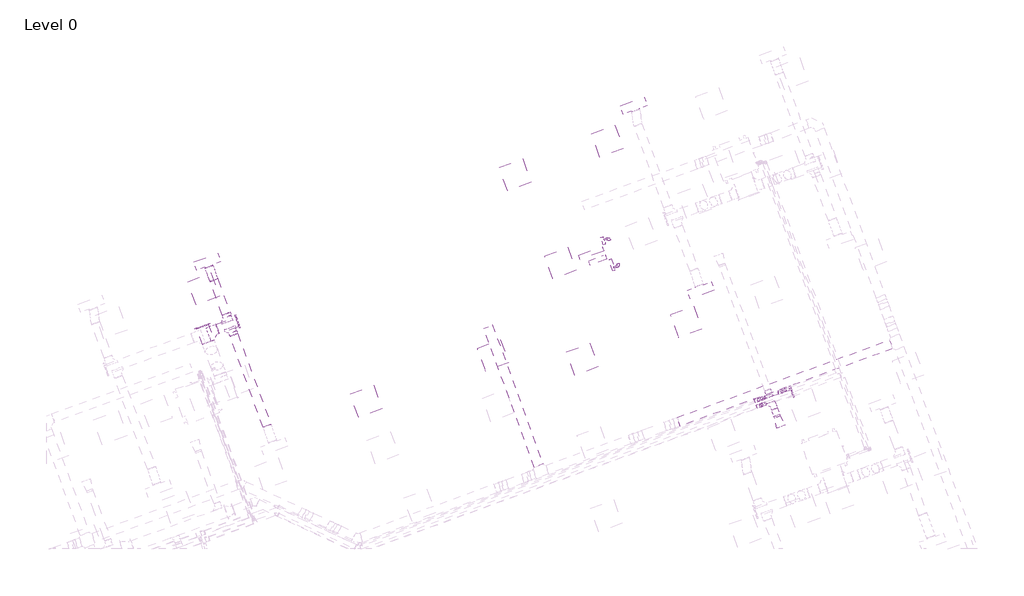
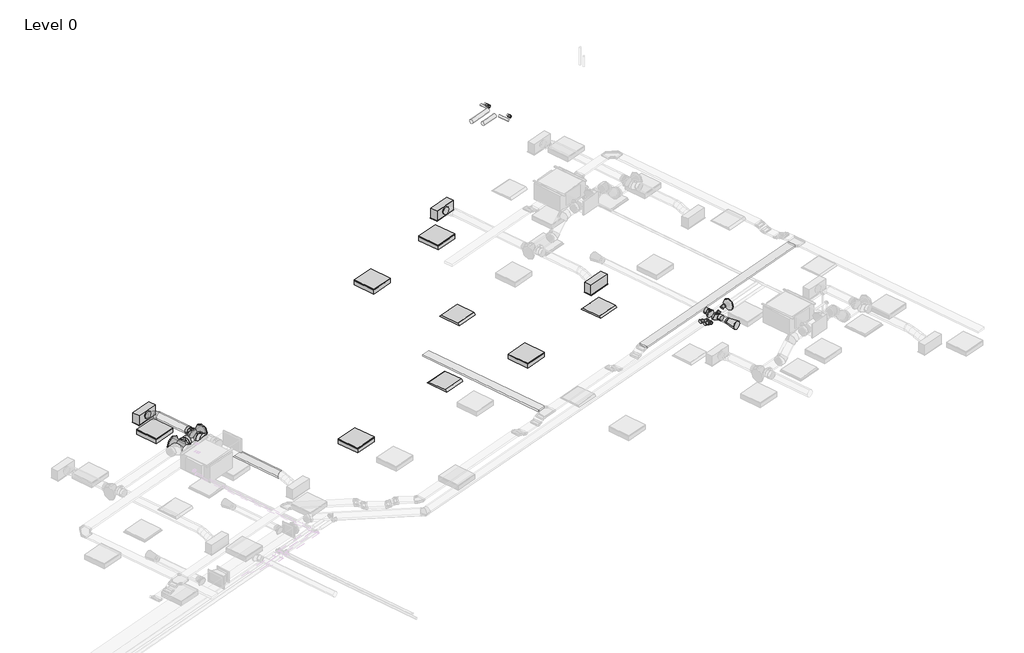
# One storey, part 31 of 34: 10 pipe segments, 8 duct fittings, 8 light fixtures, 8 pipe fittings, 6 duct segments, 4 air terminals, 2 cable carrier segments.
"""IFC4 building model written with IfcOpenShell, lengths in millimetres."""

from ifc_helpers import new_model, si_unit, point, frame, frame_2d, origin, place, context, project, spatial, polyline, circle_curve, ellipse_curve, trimmed, segment, composite_curve, outline, extrude, transform, mapped, element, save
from ifc_brep_helpers import plane_surface, cylinder_surface, advanced_brep
from components import air_terminal_0d1c431e, supply_diffuser_with_plenum_linear_slot_hosted_8c379eed, dw144_round_blank_end_standard_8c6f93a0, dw144_round_blank_end_standard_e3d0b58b, dw144_round_blank_end_standard_5beff049, dw144_round_shoe_branch_slip_joint1_standard_2_0dbb398a, dw144_round_shoe_branch_slip_joint1_standard_2_15a2edd8, dw144_round_shoe_branch_slip_joint1_standard_2_ce91aa06, dw144_round_shoe_branch_slip_joint1_standard_2_54bfcc3c, light_fixture_b730b5ca, troffer_light_2x2_parabolic_2_x2_2_lamp_120v_6a063ff3, elbow_plain_abs_standard_192b4b37, elbow_threaded_gmi_standard_e52ea759

model = new_model("IFC4")

# Units and contexts
model_context = context("Model", 3, world=origin())
ifc_project = project(units=[si_unit("LENGTHUNIT", "METRE", prefix="MILLI")], contexts=[model_context])

# Site, building, storey
site = spatial("IfcSite", under=ifc_project)
building = spatial("IfcBuilding", under=site)
storey = spatial("IfcBuildingStorey", under=building, Name="Level 0", Elevation=0.0)

# Air terminals
placement = place(None, origin())
air_terminal_shape = air_terminal_0d1c431e(model_context)
element("IfcAirTerminal", 1, ObjectType="Supply_Bell_Mouth_Grille : Supply_Bell_Mouth_Grille", at=placement, inside=storey, context=model_context, shape_type="MappedRepresentation", body=[
    mapped(air_terminal_shape, transform((59441.0619748, 16002.7415496, 3050.0), x_axis=(0.3420201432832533, -0.9396926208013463, 0.0), y_axis=(0.9396926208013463, 0.3420201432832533, 0.0), z_axis=(0.0, 0.0, 1.0))),
])
supply_diffuser_with_plenum_linear_slot_hosted_shape = supply_diffuser_with_plenum_linear_slot_hosted_8c379eed(model_context)
element("IfcAirTerminal", 2, ObjectType="Supply Diffuser with Plenum - Linear Slot - Hosted : 24\" x 8\"-200 In Inlet  4-Slot", at=placement, inside=storey, context=model_context, shape_type="MappedRepresentation", body=[
    mapped(supply_diffuser_with_plenum_linear_slot_hosted_shape, transform((45507.8020498, 19798.6228469, 2800.0), x_axis=(-0.9396926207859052, -0.3420201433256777, 0.0), y_axis=(-0.3420201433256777, 0.9396926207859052, 0.0), z_axis=(0.0, 0.0, -1.0))),
])
element("IfcAirTerminal", 3, ObjectType="Supply Diffuser with Plenum - Linear Slot - Hosted : 24\" x 8\"-200 In Inlet  4-Slot", at=placement, inside=storey, context=model_context, shape_type="MappedRepresentation", body=[
    mapped(supply_diffuser_with_plenum_linear_slot_hosted_shape, transform((55928.2677465, 23610.3577605, 2800.0), x_axis=(-0.9396926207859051, -0.3420201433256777, 0.0), y_axis=(-0.3420201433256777, 0.9396926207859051, 0.0), z_axis=(0.0, 0.0, -1.0))),
])
element("IfcAirTerminal", 4, ObjectType="Supply Diffuser with Plenum - Linear Slot - Hosted : 24\" x 8\"-200 In Inlet  4-Slot", at=placement, inside=storey, context=model_context, shape_type="MappedRepresentation", body=[
    mapped(supply_diffuser_with_plenum_linear_slot_hosted_shape, transform((57569.9644345, 19099.8331807, 2800.0), x_axis=(0.939692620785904, 0.342020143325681, 0.0), y_axis=(0.342020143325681, -0.939692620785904, 0.0), z_axis=(0.0, 0.0, -1.0))),
])

# Cable carrier segments
element("IfcCableCarrierSegment", 5, ObjectType="Perforated Cable Tray", at=placement, inside=storey, context=model_context, shape_type="SweptSolid", body=[
    extrude(outline(polyline([(57064.256116, 15784.4127054), (56987.3015838, 15995.8435451), (62175.5159364, 17884.1991384), (62252.4704687, 17672.7682988), (57064.256116, 15784.4127054)])), frame((0.0, 0.0, 3223.9627355), z_axis=(0.0, 0.0, 1.0), x_axis=(1.0, 0.0, 0.0)), (0.0, 0.0, 1.0), 50.0),
])
element("IfcCableCarrierSegment", 6, ObjectType="Perforated Cable Tray", at=placement, inside=storey, context=model_context, shape_type="SweptSolid", body=[
    extrude(outline(polyline([(53712.3288317, 14857.0598339), (53500.897992, 14780.1053017), (52264.8463348, 18176.1293191), (52476.2771745, 18253.0838513), (53712.3288317, 14857.0598339)])), frame((0.0, 0.0, 3223.9627355), z_axis=(0.0, 0.0, 1.0), x_axis=(1.0, 0.0, 0.0)), (0.0, 0.0, 1.0), 50.0),
])

# Duct fittings
dw144_round_blank_end_standard_shape = dw144_round_blank_end_standard_8c6f93a0(model_context)
element("IfcDuctFitting", 7, ObjectType="DW144 Round Blank End : Standard", at=placement, inside=storey, context=model_context, shape_type="MappedRepresentation", body=[
    mapped(dw144_round_blank_end_standard_shape, transform((45393.8401716, 18213.3017532, 3072.2088531), x_axis=(-0.3420201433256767, 0.9396926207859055, 0.0), y_axis=(-0.9396926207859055, -0.3420201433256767, 0.0), z_axis=(0.0, 0.0, 1.0))),
])
dw144_round_blank_end_standard_2_shape = dw144_round_blank_end_standard_e3d0b58b(model_context)
element("IfcDuctFitting", 8, ObjectType="DW144 Round Blank End : Standard", at=placement, inside=storey, context=model_context, shape_type="MappedRepresentation", body=[
    mapped(dw144_round_blank_end_standard_2_shape, transform((46241.3458374, 18331.6052055, 3072.2088531), x_axis=(0.9396926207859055, 0.3420201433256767, 0.0), y_axis=(-0.3420201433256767, 0.9396926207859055, 0.0), z_axis=(0.0, 0.0, 1.0))),
])
dw144_round_blank_end_standard_3_shape = dw144_round_blank_end_standard_5beff049(model_context)
element("IfcDuctFitting", 9, ObjectType="DW144 Round Blank End : Standard", at=placement, inside=storey, context=model_context, shape_type="MappedRepresentation", body=[
    mapped(dw144_round_blank_end_standard_3_shape, transform((59783.5120284, 16619.7977036, 3050.0), x_axis=(0.9396926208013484, 0.34202014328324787, 0.0), y_axis=(-0.34202014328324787, 0.9396926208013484, 0.0), z_axis=(0.0, 0.0, 1.0))),
])
dw144_round_shoe_branch_slip_joint1_standard_2_shape = dw144_round_shoe_branch_slip_joint1_standard_2_0dbb398a(model_context)
element("IfcDuctFitting", 10, ObjectType="DW144 Round Shoe Branch - Slip Joint1 : Standard 2", at=placement, inside=storey, context=model_context, shape_type="MappedRepresentation", body=[
    mapped(dw144_round_shoe_branch_slip_joint1_standard_2_shape, transform((45595.9113981, 18096.6862814, 3072.2088531), x_axis=(0.9396926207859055, 0.3420201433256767, 0.0), y_axis=(0.3420201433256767, -0.9396926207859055, 0.0), z_axis=(0.0, 0.0, -1.0))),
])
dw144_round_shoe_branch_slip_joint1_standard_2_2_shape = dw144_round_shoe_branch_slip_joint1_standard_2_15a2edd8(model_context)
element("IfcDuctFitting", 11, ObjectType="DW144 Round Shoe Branch - Slip Joint1 : Standard 2", at=placement, inside=storey, context=model_context, shape_type="MappedRepresentation", body=[
    mapped(dw144_round_shoe_branch_slip_joint1_standard_2_2_shape, transform((46022.3482361, 18384.9188188, 3072.2088531), x_axis=(-0.3420201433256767, 0.9396926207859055, 0.0), y_axis=(0.9396926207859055, 0.3420201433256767, 0.0), z_axis=(0.0, 0.0, -1.0))),
])
element("IfcDuctFitting", 12, ObjectType="DW144 Round Shoe Branch - Slip Joint1 : Standard 2", at=placement, inside=storey, context=model_context, shape_type="MappedRepresentation", body=[
    mapped(dw144_round_shoe_branch_slip_joint1_standard_2_2_shape, transform((46107.8532719, 18149.9956636, 3072.2088531), x_axis=(0.3420201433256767, -0.9396926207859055, 0.0), y_axis=(0.9396926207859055, 0.3420201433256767, 0.0), z_axis=(0.0, 0.0, 1.0))),
])
dw144_round_shoe_branch_slip_joint1_standard_2_3_shape = dw144_round_shoe_branch_slip_joint1_standard_2_ce91aa06(model_context)
element("IfcDuctFitting", 13, ObjectType="DW144 Round Shoe Branch - Slip Joint1 : Standard 2", at=placement, inside=storey, context=model_context, shape_type="MappedRepresentation", body=[
    mapped(dw144_round_shoe_branch_slip_joint1_standard_2_3_shape, transform((59248.6009819, 16531.5237819, 3050.0), x_axis=(-0.34202014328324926, 0.9396926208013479, 0.0), y_axis=(0.9396926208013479, 0.34202014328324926, 0.0), z_axis=(0.0, 0.0, -1.0))),
])
dw144_round_shoe_branch_slip_joint1_standard_2_4_shape = dw144_round_shoe_branch_slip_joint1_standard_2_54bfcc3c(model_context)
element("IfcDuctFitting", 14, ObjectType="DW144 Round Shoe Branch - Slip Joint1 : Standard 2", at=placement, inside=storey, context=model_context, shape_type="MappedRepresentation", body=[
    mapped(dw144_round_shoe_branch_slip_joint1_standard_2_4_shape, transform((59317.0050106, 16343.5852578, 3050.0), x_axis=(0.3420201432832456, -0.9396926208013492, 0.0), y_axis=(-0.9396926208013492, -0.3420201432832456, 0.0), z_axis=(0.0, 0.0, -1.0))),
])

# Duct segments
element("IfcDuctSegment", 15, ObjectType="DW144 Segmented Bend / Shoe Branch", at=placement, inside=storey, context=model_context, shape_type="SweptSolid", body=[
    extrude(outline(composite_curve([segment(trimmed(circle_curve(frame_2d((0.0, 150.0)), 150.0), [point((150.0, 150.0))], [point((0.0, 0.0))], False, "CARTESIAN"), True, "CONTINUOUS"), segment(trimmed(circle_curve(frame_2d((0.0, 150.0)), 150.0), [point((0.0, 0.0))], [point((-150.0, 150.0))], False, "CARTESIAN"), True, "CONTINUOUS"), segment(trimmed(circle_curve(frame_2d((0.0, 150.0)), 150.0), [point((-150.0, 150.0))], [point((0.0, 300.0))], False, "CARTESIAN"), True, "CONTINUOUS"), segment(trimmed(circle_curve(frame_2d((0.0, 150.0)), 150.0), [point((0.0, 300.0))], [point((150.0, 150.0))], False, "CARTESIAN"), True, "CONTINUOUS")], self_intersect=False)), frame((45534.539793, 17826.7327206, 3222.2088531), z_axis=(-0.34202014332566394, 0.9396926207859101, 0.0), x_axis=(0.9396926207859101, 0.34202014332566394, 0.0)), (0.0, 0.0, 1.0), 411.3781721),
])
element("IfcDuctSegment", 16, ObjectType="DW144 Segmented Bend / Shoe Branch", at=placement, inside=storey, context=model_context, shape_type="SweptSolid", body=[
    extrude(outline(composite_curve([segment(trimmed(circle_curve(frame_2d((0.0, 125.0)), 125.0), [point((125.0, 125.0))], [point((0.0, 0.0))], False, "CARTESIAN"), True, "CONTINUOUS"), segment(trimmed(circle_curve(frame_2d((0.0, 125.0)), 125.0), [point((0.0, 0.0))], [point((-125.0, 125.0))], False, "CARTESIAN"), True, "CONTINUOUS"), segment(trimmed(circle_curve(frame_2d((0.0, 125.0)), 125.0), [point((-125.0, 125.0))], [point((0.0, 250.0))], False, "CARTESIAN"), True, "CONTINUOUS"), segment(trimmed(circle_curve(frame_2d((0.0, 125.0)), 125.0), [point((0.0, 250.0))], [point((125.0, 125.0))], False, "CARTESIAN"), True, "CONTINUOUS")], self_intersect=False)), frame((45760.3576068, 18156.5398065, 3197.2088531), z_axis=(0.9396926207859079, 0.3420201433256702, 0.0), x_axis=(0.3420201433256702, -0.9396926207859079, 0.0)), (0.0, 0.0, 1.0), 511.8569839),
])
element("IfcDuctSegment", 17, ObjectType="DW144 Segmented Bend / Shoe Branch", at=placement, inside=storey, context=model_context, shape_type="SweptSolid", body=[
    extrude(outline(composite_curve([segment(trimmed(circle_curve(frame_2d((0.0, 100.0)), 100.0), [point((100.0, 100.0))], [point((0.0, 0.0))], False, "CARTESIAN"), True, "CONTINUOUS"), segment(trimmed(circle_curve(frame_2d((0.0, 100.0)), 100.0), [point((0.0, 0.0))], [point((-100.0, 100.0))], False, "CARTESIAN"), True, "CONTINUOUS"), segment(trimmed(circle_curve(frame_2d((0.0, 100.0)), 100.0), [point((-100.0, 100.0))], [point((0.0, 200.0))], False, "CARTESIAN"), True, "CONTINUOUS"), segment(trimmed(circle_curve(frame_2d((0.0, 100.0)), 100.0), [point((0.0, 200.0))], [point((100.0, 100.0))], False, "CARTESIAN"), True, "CONTINUOUS")], self_intersect=False)), frame((45971.0452146, 18525.8727119, 3172.2088531), z_axis=(-0.34202014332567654, 0.9396926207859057, 0.0), x_axis=(0.9396926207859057, 0.34202014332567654, 0.0)), (0.0, 0.0, 1.0), 876.1305848),
])
element("IfcDuctSegment", 18, ObjectType="DW144 Segmented Bend / Shoe Branch", at=placement, inside=storey, context=model_context, shape_type="SweptSolid", body=[
    extrude(outline(composite_curve([segment(trimmed(circle_curve(frame_2d((0.0, -100.0)), 100.0), [point((-99.9999999, -100.0))], [point((0.0, 0.0))], False, "CARTESIAN"), True, "CONTINUOUS"), segment(trimmed(circle_curve(frame_2d((0.0, -100.0)), 100.0), [point((0.0, 0.0))], [point((100.0, -100.0))], False, "CARTESIAN"), True, "CONTINUOUS"), segment(trimmed(circle_curve(frame_2d((0.0, -100.0)), 100.0), [point((100.0, -100.0))], [point((0.0, -200.0))], False, "CARTESIAN"), True, "CONTINUOUS"), segment(trimmed(circle_curve(frame_2d((0.0, -100.0)), 100.0), [point((0.0, -200.0))], [point((-99.9999999, -100.0))], False, "CARTESIAN"), True, "CONTINUOUS")], self_intersect=False)), frame((46967.6472496, 15787.7311245, 2972.2088531), z_axis=(-0.34202014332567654, 0.9396926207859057, 0.0), x_axis=(0.9396926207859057, 0.34202014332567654, 0.0)), (0.0, 0.0, 1.0), 2363.8694152),
])
element("IfcDuctSegment", 19, ObjectType="DW144 Segmented Bend / Shoe Branch", at=placement, inside=storey, context=model_context, shape_type="SweptSolid", body=[
    extrude(outline(composite_curve([segment(trimmed(circle_curve(frame_2d((0.0, -75.0)), 75.0), [point((-74.9999999, -75.0))], [point((0.0, 0.0))], False, "CARTESIAN"), True, "CONTINUOUS"), segment(trimmed(circle_curve(frame_2d((0.0, -75.0)), 75.0), [point((0.0, 0.0))], [point((75.0, -75.0))], False, "CARTESIAN"), True, "CONTINUOUS"), segment(trimmed(circle_curve(frame_2d((0.0, -75.0)), 75.0), [point((75.0, -75.0))], [point((0.0, -150.0))], False, "CARTESIAN"), True, "CONTINUOUS"), segment(trimmed(circle_curve(frame_2d((0.0, -75.0)), 75.0), [point((0.0, -150.0))], [point((-74.9999999, -75.0))], False, "CARTESIAN"), True, "CONTINUOUS")], self_intersect=False)), frame((59441.0619748, 16002.7415496, 2975.0), z_axis=(-0.34202014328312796, 0.939692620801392, 0.0), x_axis=(0.939692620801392, 0.34202014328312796, 0.0)), (0.0, 0.0, 1.0), 212.7182981),
])
element("IfcDuctSegment", 20, ObjectType="Flex - Round", at=placement, inside=storey, context=model_context, shape_type="AdvancedBrep", body=[
    advanced_brep(
    [(45577.4216444, 19314.9641429, 3072.2088531), (45671.3909064, 19349.1661573, 2972.2088531), (45765.3601685, 19383.3681716, 3072.2088531), (45671.3909064, 19349.1661573, 3172.2088531), (45570.5064421, 19333.963505, 3072.2088531), (45668.9630014, 19355.8367715, 2972.2088531), (45758.4449663, 19402.3675336, 3072.2088531), (45659.988407, 19380.494267, 3172.2088531), (45457.9191842, 19643.2944537, 2954.4), (45551.8884463, 19677.496468, 3054.4), (45645.8577084, 19711.6984824, 2954.4), (45551.8884463, 19677.496468, 2854.4), (45546.9263376, 19398.7493096, 3053.8012198), (45652.7213669, 19400.4602956, 2959.5299419), (45734.8648618, 19467.1533382, 3053.8012198), (45629.0698325, 19465.4423522, 3148.0724978), (45517.6704143, 19479.1292983, 3013.3044266), (45626.2747484, 19473.1217826, 2922.9218599), (45705.6089384, 19547.533327, 3013.3044266), (45597.0046043, 19553.5408427, 3103.6869932), (45488.414491, 19559.5092871, 2972.8076333), (45594.2095202, 19561.2202731, 2878.5363553), (45676.3530151, 19627.9133157, 2972.8076333), (45570.5579858, 19626.2023297, 3067.0789113), (45464.8343865, 19624.2950917, 2954.4), (45563.2909458, 19646.1683582, 2854.4), (45652.7729106, 19692.6991203, 2954.4), (45554.3163513, 19670.8258538, 3054.4)],
    [
        (0, 1, circle_curve(frame((45671.3909064, 19349.1661573, 3072.2088531), z_axis=(0.34202014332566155, -0.9396926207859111, 0.0), x_axis=(-0.9396926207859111, -0.34202014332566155, 0.0)), 100.0)),
        (1, 2, circle_curve(frame((45671.3909064, 19349.1661573, 3072.2088531), z_axis=(0.34202014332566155, -0.9396926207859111, 0.0), x_axis=(-0.9396926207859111, -0.34202014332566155, 0.0)), 100.0)),
        (2, 3, circle_curve(frame((45671.3909064, 19349.1661573, 3072.2088531), z_axis=(0.34202014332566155, -0.9396926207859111, 0.0), x_axis=(-0.9396926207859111, -0.34202014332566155, 0.0)), 100.0)),
        (3, 0, circle_curve(frame((45671.3909064, 19349.1661573, 3072.2088531), z_axis=(0.34202014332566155, -0.9396926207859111, 0.0), x_axis=(-0.9396926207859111, -0.34202014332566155, 0.0)), 100.0)),
        (0, 4),
        (4, 5, ellipse_curve(frame((45664.4757042, 19368.1655193, 3072.2088531), z_axis=(0.3391139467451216, -0.9317079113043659, 0.13008496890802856), x_axis=(0.044491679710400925, -0.12223988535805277, -0.9915028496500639)), 100.8569971, 100.0)),
        (5, 1),
        (5, 6, ellipse_curve(frame((45664.4757042, 19368.1655193, 3072.2088531), z_axis=(0.3391139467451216, -0.9317079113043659, 0.13008496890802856), x_axis=(0.044491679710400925, -0.12223988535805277, -0.9915028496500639)), 100.8569971, 100.0)),
        (6, 2),
        (6, 7, ellipse_curve(frame((45664.4757042, 19368.1655193, 3072.2088531), z_axis=(0.3391139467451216, -0.9317079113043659, 0.13008496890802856), x_axis=(0.044491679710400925, -0.12223988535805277, -0.9915028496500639)), 100.8569971, 100.0)),
        (7, 3),
        (7, 4, ellipse_curve(frame((45664.4757042, 19368.1655193, 3072.2088531), z_axis=(0.3391139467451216, -0.9317079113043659, 0.13008496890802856), x_axis=(0.044491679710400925, -0.12223988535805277, -0.9915028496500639)), 100.8569971, 100.0)),
        (8, 9, circle_curve(frame((45551.8884463, 19677.496468, 2954.4), z_axis=(-0.34202014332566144, 0.9396926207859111, 0.0), x_axis=(-0.9396926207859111, -0.34202014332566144, 0.0)), 100.0)),
        (9, 10, circle_curve(frame((45551.8884463, 19677.496468, 2954.4), z_axis=(-0.34202014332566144, 0.9396926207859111, 0.0), x_axis=(-0.9396926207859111, -0.34202014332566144, 0.0)), 100.0)),
        (10, 11, circle_curve(frame((45551.8884463, 19677.496468, 2954.4), z_axis=(-0.34202014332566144, 0.9396926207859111, 0.0), x_axis=(-0.9396926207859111, -0.34202014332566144, 0.0)), 100.0)),
        (11, 8, circle_curve(frame((45551.8884463, 19677.496468, 2954.4), z_axis=(-0.34202014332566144, 0.9396926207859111, 0.0), x_axis=(-0.9396926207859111, -0.34202014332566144, 0.0)), 100.0)),
        (4, 12),
        (12, 13, ellipse_curve(frame((45640.8955997, 19432.9513239, 3053.8012198), z_axis=(0.32110349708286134, -0.8822246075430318, 0.34434326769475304), x_axis=(0.117772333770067, -0.32357682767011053, -0.9388438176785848)), 100.4120986, 100.0)),
        (13, 5),
        (13, 14, ellipse_curve(frame((45640.8955997, 19432.9513239, 3053.8012198), z_axis=(0.32110349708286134, -0.8822246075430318, 0.34434326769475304), x_axis=(0.117772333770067, -0.32357682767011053, -0.9388438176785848)), 100.4120986, 100.0)),
        (14, 6),
        (14, 15, ellipse_curve(frame((45640.8955997, 19432.9513239, 3053.8012198), z_axis=(0.32110349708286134, -0.8822246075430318, 0.34434326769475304), x_axis=(0.117772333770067, -0.32357682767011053, -0.9388438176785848)), 100.4120986, 100.0)),
        (15, 7),
        (15, 12, ellipse_curve(frame((45640.8955997, 19432.9513239, 3053.8012198), z_axis=(0.32110349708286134, -0.8822246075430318, 0.34434326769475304), x_axis=(0.117772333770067, -0.32357682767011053, -0.9388438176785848)), 100.4120986, 100.0)),
        (12, 16),
        (16, 17, circle_curve(frame((45611.6396764, 19513.3313126, 3013.3044266), z_axis=(0.30912658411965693, -0.8493183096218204, 0.4279008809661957), x_axis=(-0.9396926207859, -0.3420201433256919, 0.0)), 100.0)),
        (17, 13),
        (17, 18, circle_curve(frame((45611.6396764, 19513.3313126, 3013.3044266), z_axis=(0.30912658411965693, -0.8493183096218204, 0.4279008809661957), x_axis=(-0.9396926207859, -0.3420201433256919, 0.0)), 100.0)),
        (18, 14),
        (18, 19, circle_curve(frame((45611.6396764, 19513.3313126, 3013.3044266), z_axis=(0.30912658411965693, -0.8493183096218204, 0.4279008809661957), x_axis=(-0.9396926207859, -0.3420201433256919, 0.0)), 100.0)),
        (19, 15),
        (19, 16, circle_curve(frame((45611.6396764, 19513.3313126, 3013.3044266), z_axis=(0.30912658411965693, -0.8493183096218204, 0.4279008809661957), x_axis=(-0.9396926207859, -0.3420201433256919, 0.0)), 100.0)),
        (16, 20),
        (20, 21, ellipse_curve(frame((45582.383753, 19593.7113014, 2972.8076333), z_axis=(0.3211034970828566, -0.8822246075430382, 0.34434326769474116), x_axis=(-0.11777233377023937, 0.32357682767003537, 0.938843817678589)), 100.4120986, 100.0)),
        (21, 17),
        (21, 22, ellipse_curve(frame((45582.383753, 19593.7113014, 2972.8076333), z_axis=(0.3211034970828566, -0.8822246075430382, 0.34434326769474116), x_axis=(-0.11777233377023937, 0.32357682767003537, 0.938843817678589)), 100.4120986, 100.0)),
        (22, 18),
        (22, 23, ellipse_curve(frame((45582.383753, 19593.7113014, 2972.8076333), z_axis=(0.3211034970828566, -0.8822246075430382, 0.34434326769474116), x_axis=(-0.11777233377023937, 0.32357682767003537, 0.938843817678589)), 100.4120986, 100.0)),
        (23, 19),
        (23, 20, ellipse_curve(frame((45582.383753, 19593.7113014, 2972.8076333), z_axis=(0.3211034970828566, -0.8822246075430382, 0.34434326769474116), x_axis=(-0.11777233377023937, 0.32357682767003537, 0.938843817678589)), 100.4120986, 100.0)),
        (20, 24),
        (24, 25, ellipse_curve(frame((45558.8036486, 19658.497106, 2954.4), z_axis=(0.3391139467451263, -0.9317079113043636, 0.13008496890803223), x_axis=(-0.044491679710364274, 0.12223988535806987, 0.9915028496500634)), 100.8569971, 100.0)),
        (25, 21),
        (25, 26, ellipse_curve(frame((45558.8036486, 19658.497106, 2954.4), z_axis=(0.3391139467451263, -0.9317079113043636, 0.13008496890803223), x_axis=(-0.044491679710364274, 0.12223988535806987, 0.9915028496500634)), 100.8569971, 100.0)),
        (26, 22),
        (26, 27, ellipse_curve(frame((45558.8036486, 19658.497106, 2954.4), z_axis=(0.3391139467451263, -0.9317079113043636, 0.13008496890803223), x_axis=(-0.044491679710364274, 0.12223988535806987, 0.9915028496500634)), 100.8569971, 100.0)),
        (27, 23),
        (27, 24, ellipse_curve(frame((45558.8036486, 19658.497106, 2954.4), z_axis=(0.3391139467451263, -0.9317079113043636, 0.13008496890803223), x_axis=(-0.044491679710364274, 0.12223988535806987, 0.9915028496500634)), 100.8569971, 100.0)),
        (24, 8),
        (11, 25),
        (10, 26),
        (9, 27),
    ],
    [
        plane_surface(frame((45671.3909064, 19349.1661573, 3172.2088531), z_axis=(0.34202014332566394, -0.9396926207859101, 0.0), x_axis=(0.9396926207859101, 0.34202014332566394, 0.0))),
        cylinder_surface(frame((45671.3909064, 19349.1661573, 3072.2088531), z_axis=(0.34202014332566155, -0.9396926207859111, 0.0), x_axis=(-0.9396926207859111, -0.34202014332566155, 0.0)), 100.0),
        plane_surface(frame((45551.8884463, 19677.496468, 3054.4), z_axis=(-0.3420201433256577, 0.9396926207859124, 0.0), x_axis=(0.9396926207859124, 0.3420201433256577, 0.0))),
        cylinder_surface(frame((45664.4757042, 19368.1655193, 3072.2088531), z_axis=(0.33044474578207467, -0.9078894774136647, 0.2579592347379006), x_axis=(-0.9396926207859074, -0.3420201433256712, 0.0)), 100.0),
        cylinder_surface(frame((45640.8955997, 19432.9513239, 3053.8012198), z_axis=(0.30912658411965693, -0.8493183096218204, 0.4279008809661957), x_axis=(-0.9396926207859, -0.3420201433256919, 0.0)), 100.0),
        cylinder_surface(frame((45611.6396764, 19513.3313126, 3013.3044266), z_axis=(0.3091265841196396, -0.8493183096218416, 0.42790088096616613), x_axis=(-0.9396926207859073, -0.34202014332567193, 0.0)), 100.0),
        cylinder_surface(frame((45582.383753, 19593.7113014, 2972.8076333), z_axis=(0.3304447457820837, -0.9078894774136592, 0.25795923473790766), x_axis=(-0.9396926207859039, -0.342020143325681, 0.0)), 100.0),
        cylinder_surface(frame((45558.8036486, 19658.497106, 2954.4), z_axis=(0.34202014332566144, -0.9396926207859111, 0.0), x_axis=(-0.9396926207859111, -0.34202014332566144, 0.0)), 100.0),
    ],
    [
        (0, [[1, 2, 3, 4]]),
        (1, [[-1, 5, 6, 7]]),
        (1, [[-2, -7, 8, 9]]),
        (1, [[-3, -9, 10, 11]]),
        (1, [[-4, -11, 12, -5]]),
        (2, [[13, 14, 15, 16]]),
        (3, [[-6, 17, 18, 19]]),
        (3, [[-8, -19, 20, 21]]),
        (3, [[-10, -21, 22, 23]]),
        (3, [[-12, -23, 24, -17]]),
        (4, [[-18, 25, 26, 27]]),
        (4, [[-20, -27, 28, 29]]),
        (4, [[-22, -29, 30, 31]]),
        (4, [[-24, -31, 32, -25]]),
        (5, [[-26, 33, 34, 35]]),
        (5, [[-28, -35, 36, 37]]),
        (5, [[-30, -37, 38, 39]]),
        (5, [[-32, -39, 40, -33]]),
        (6, [[-34, 41, 42, 43]]),
        (6, [[-36, -43, 44, 45]]),
        (6, [[-38, -45, 46, 47]]),
        (6, [[-40, -47, 48, -41]]),
        (7, [[-42, 49, -16, 50]]),
        (7, [[-44, -50, -15, 51]]),
        (7, [[-46, -51, -14, 52]]),
        (7, [[-48, -52, -13, -49]]),
    ],
),
])

# Light fixtures
light_fixture_shape = light_fixture_b730b5ca(model_context)
element("IfcLightFixture", 21, ObjectType="ELEKTRA EM Recessed Lighting Fixture : 24\" x 24\" - 230", at=placement, inside=storey, context=model_context, shape_type="MappedRepresentation", body=[
    mapped(light_fixture_shape, transform((52312.6795837, 17126.211938, 2800.0), x_axis=(0.9396926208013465, 0.342020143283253, 0.0), y_axis=(0.342020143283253, -0.9396926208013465, 0.0), z_axis=(0.0, 0.0, -1.0))),
])
element("IfcLightFixture", 22, ObjectType="ELEKTRA EM Recessed Lighting Fixture : 24\" x 24\" - 230", at=placement, inside=storey, context=model_context, shape_type="MappedRepresentation", body=[
    mapped(light_fixture_shape, transform((57032.0592046, 17946.2916931, 2800.0), x_axis=(0.9396926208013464, 0.34202014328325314, 0.0), y_axis=(0.34202014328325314, -0.9396926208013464, 0.0), z_axis=(0.0, 0.0, -1.0))),
])
element("IfcLightFixture", 23, ObjectType="ELEKTRA EM Recessed Lighting Fixture : 24\" x 24\" - 230", at=placement, inside=storey, context=model_context, shape_type="MappedRepresentation", body=[
    mapped(light_fixture_shape, transform((53955.9485708, 19380.7056391, 2800.0), x_axis=(0.9396926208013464, 0.34202014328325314, 0.0), y_axis=(0.34202014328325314, -0.9396926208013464, 0.0), z_axis=(0.0, 0.0, -1.0))),
])
troffer_light_2x2_parabolic_2_x2_2_lamp_120v_shape = troffer_light_2x2_parabolic_2_x2_2_lamp_120v_6a063ff3(model_context)
element("IfcLightFixture", 24, ObjectType="Troffer Light - 2x2 Parabolic : 2'x2'(2 Lamp) - 120V", at=placement, inside=storey, context=model_context, shape_type="MappedRepresentation", body=[
    mapped(troffer_light_2x2_parabolic_2_x2_2_lamp_120v_shape, transform((45522.7179893, 18846.2918096, 2800.0), x_axis=(0.9396926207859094, 0.34202014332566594, 0.0), y_axis=(0.34202014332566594, -0.9396926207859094, 0.0), z_axis=(0.0, 0.0, -1.0))),
])
element("IfcLightFixture", 25, ObjectType="Troffer Light - 2x2 Parabolic : 2'x2'(2 Lamp) - 120V", at=placement, inside=storey, context=model_context, shape_type="MappedRepresentation", body=[
    mapped(troffer_light_2x2_parabolic_2_x2_2_lamp_120v_shape, transform((49493.6017213, 16100.1515081, 2800.0), x_axis=(0.9396926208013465, 0.342020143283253, 0.0), y_axis=(0.342020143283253, -0.9396926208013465, 0.0), z_axis=(0.0, 0.0, -1.0))),
])
element("IfcLightFixture", 26, ObjectType="Troffer Light - 2x2 Parabolic : 2'x2'(2 Lamp) - 120V", at=placement, inside=storey, context=model_context, shape_type="MappedRepresentation", body=[
    mapped(troffer_light_2x2_parabolic_2_x2_2_lamp_120v_shape, transform((55390.3625169, 22456.8162729, 2800.0), x_axis=(0.9396926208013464, 0.34202014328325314, 0.0), y_axis=(0.34202014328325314, -0.9396926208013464, 0.0), z_axis=(0.0, 0.0, -1.0))),
])
element("IfcLightFixture", 27, ObjectType="Troffer Light - 2x2 Parabolic : 2'x2'(2 Lamp) - 120V", at=placement, inside=storey, context=model_context, shape_type="MappedRepresentation", body=[
    mapped(troffer_light_2x2_parabolic_2_x2_2_lamp_120v_shape, transform((53135.100227, 21635.967929, 2800.0), x_axis=(0.9396926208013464, 0.34202014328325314, 0.0), y_axis=(0.34202014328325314, -0.9396926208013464, 0.0), z_axis=(0.0, 0.0, -1.0))),
])
element("IfcLightFixture", 28, ObjectType="Troffer Light - 2x2 Parabolic : 2'x2'(2 Lamp) - 120V", at=placement, inside=storey, context=model_context, shape_type="MappedRepresentation", body=[
    mapped(troffer_light_2x2_parabolic_2_x2_2_lamp_120v_shape, transform((54776.7969147, 17125.4433492, 2800.0), x_axis=(0.9396926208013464, 0.34202014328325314, 0.0), y_axis=(0.34202014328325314, -0.9396926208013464, 0.0), z_axis=(0.0, 0.0, -1.0))),
])

# Pipe fittings
elbow_plain_abs_standard_shape = elbow_plain_abs_standard_192b4b37(model_context)
element("IfcPipeFitting", 29, ObjectType="Elbow - Plain - ABS : Standard", at=placement, inside=storey, context=model_context, shape_type="MappedRepresentation", body=[
    mapped(elbow_plain_abs_standard_shape, transform((55561.4010167, 19697.4018191, 8137.881988), x_axis=(0.664463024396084, 0.2418447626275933, -0.7071067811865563), y_axis=(-0.34787963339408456, 0.9375183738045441, -0.0062497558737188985), z_axis=(0.6614141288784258, 0.2501407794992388, 0.7070791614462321))),
])
element("IfcPipeFitting", 30, ObjectType="Elbow - Plain - ABS : Standard", at=placement, inside=storey, context=model_context, shape_type="MappedRepresentation", body=[
    mapped(elbow_plain_abs_standard_shape, transform((55316.4258531, 20370.4655494, 8137.881988), x_axis=(0.6644630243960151, 0.24184476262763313, -0.7071067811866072), y_axis=(0.3361339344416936, -0.9417934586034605, -0.006249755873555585), z_axis=(-0.6674600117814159, -0.2335298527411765, -0.7070791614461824))),
])
elbow_threaded_gmi_standard_shape = elbow_threaded_gmi_standard_e52ea759(model_context)
element("IfcPipeFitting", 31, ObjectType="Elbow - Threaded - GMI : Standard", at=placement, inside=storey, context=model_context, shape_type="MappedRepresentation", body=[
    mapped(elbow_threaded_gmi_standard_shape, transform((58932.6532069, 16408.2765687, 3000.0), x_axis=(0.9396926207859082, 0.3420201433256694, 0.0), y_axis=(0.0, 0.0, -1.0000000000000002), z_axis=(-0.3420201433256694, 0.9396926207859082, 0.0))),
])
element("IfcPipeFitting", 32, ObjectType="Elbow - Threaded - GMI : Standard", at=placement, inside=storey, context=model_context, shape_type="MappedRepresentation", body=[
    mapped(elbow_threaded_gmi_standard_shape, transform((59095.4127432, 16467.5161953, 2900.0), x_axis=(-0.9396926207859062, -0.34202014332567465, 0.0), y_axis=(0.0, 0.0, 1.0), z_axis=(-0.34202014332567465, 0.9396926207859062, 0.0))),
])
element("IfcPipeFitting", 33, ObjectType="Elbow - Threaded - GMI : Standard", at=placement, inside=storey, context=model_context, shape_type="MappedRepresentation", body=[
    mapped(elbow_threaded_gmi_standard_shape, transform((59506.806633, 16617.2513258, 2900.0), x_axis=(-0.8137976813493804, -0.2961981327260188, -0.4999999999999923), y_axis=(-0.46984631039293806, -0.1710100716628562, 0.8660254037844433), z_axis=(-0.3420201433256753, 0.9396926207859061, 0.0))),
])
element("IfcPipeFitting", 34, ObjectType="Elbow - Threaded - GMI : Standard", at=placement, inside=storey, context=model_context, shape_type="MappedRepresentation", body=[
    mapped(elbow_threaded_gmi_standard_shape, transform((59669.5661693, 16676.4909523, 3000.0), x_axis=(0.8137976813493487, 0.2961981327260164, 0.5000000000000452), y_axis=(0.4698463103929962, 0.17101007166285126, -0.8660254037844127), z_axis=(-0.34202014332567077, 0.9396926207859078, 0.0))),
])
element("IfcPipeFitting", 35, ObjectType="Elbow - Threaded - GMI : Standard", at=placement, inside=storey, context=model_context, shape_type="MappedRepresentation", body=[
    mapped(elbow_threaded_gmi_standard_shape, transform((58981.4187988, 16274.2942063, 3000.0), x_axis=(0.939692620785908, 0.34202014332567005, 0.0), y_axis=(0.0, 0.0, -1.0000000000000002), z_axis=(-0.34202014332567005, 0.939692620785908, 0.0))),
])
element("IfcPipeFitting", 36, ObjectType="Elbow - Threaded - GMI : Standard", at=placement, inside=storey, context=model_context, shape_type="MappedRepresentation", body=[
    mapped(elbow_threaded_gmi_standard_shape, transform((59103.488451, 16318.7239262, 2925.0), x_axis=(-0.9396926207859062, -0.34202014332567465, 0.0), y_axis=(0.0, 0.0, 1.0), z_axis=(-0.34202014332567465, 0.9396926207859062, 0.0))),
])

# Pipe segments
element("IfcPipeSegment", 37, ObjectType="ABS - Solvent Welded", at=placement, inside=storey, context=model_context, shape_type="SweptSolid", body=[
    extrude(outline(composite_curve([segment(trimmed(circle_curve(frame_2d((0.0, -25.0)), 25.0), [point((11.4415384, -47.2281622))], [point((-22.2281623, -36.4415385))], False, "CARTESIAN"), True, "CONTINUOUS"), segment(trimmed(circle_curve(frame_2d((0.0, -25.0)), 25.0), [point((-22.2281623, -36.4415385))], [point((-11.4415384, -2.7718377))], False, "CARTESIAN"), True, "CONTINUOUS"), segment(trimmed(circle_curve(frame_2d((0.0, -25.0)), 25.0), [point((-11.4415384, -2.7718377))], [point((22.2281623, -13.5584615))], False, "CARTESIAN"), True, "CONTINUOUS"), segment(trimmed(circle_curve(frame_2d((0.0, -25.0)), 25.0), [point((22.2281623, -13.5584615))], [point((11.4415384, -47.2281622))], False, "CARTESIAN"), True, "CONTINUOUS")], self_intersect=False)), frame((55522.1976983, 19706.7876943, 8187.6916775), z_axis=(-0.6644630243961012, -0.24184476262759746, 0.7071067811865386), x_axis=(0.7473211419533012, -0.21503058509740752, 0.6287073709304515)), (0.0, 0.0, 1.0), 89.9928144),
])
element("IfcPipeSegment", 38, ObjectType="ABS - Solvent Welded", at=placement, inside=storey, context=model_context, shape_type="SweptSolid", body=[
    extrude(outline(composite_curve([segment(trimmed(circle_curve(frame_2d((0.0, 25.0)), 25.0), [point((-11.4415385, 47.2281622))], [point((22.2281622, 36.4415385))], False, "CARTESIAN"), True, "CONTINUOUS"), segment(trimmed(circle_curve(frame_2d((0.0, 25.0)), 25.0), [point((22.2281622, 36.4415385))], [point((11.4415384, 2.7718377))], False, "CARTESIAN"), True, "CONTINUOUS"), segment(trimmed(circle_curve(frame_2d((0.0, 25.0)), 25.0), [point((11.4415384, 2.7718377))], [point((-22.2281623, 13.5584616))], False, "CARTESIAN"), True, "CONTINUOUS"), segment(trimmed(circle_curve(frame_2d((0.0, 25.0)), 25.0), [point((-22.2281623, 13.5584616))], [point((-11.4415385, 47.2281622))], False, "CARTESIAN"), True, "CONTINUOUS")], self_intersect=False)), frame((55277.2225347, 20332.5419922, 8171.5108987), z_axis=(-0.6644630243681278, -0.24184476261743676, 0.7071067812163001), x_axis=(0.7473211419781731, -0.21503058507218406, 0.6287073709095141)), (0.0, 0.0, 1.0), 89.9928143),
])
element("IfcPipeSegment", 39, ObjectType="Carbon Steel - Threaded", at=placement, inside=storey, context=model_context, shape_type="SweptSolid", body=[
    extrude(outline(composite_curve([segment(trimmed(circle_curve(frame_2d((0.0, -57.45)), 57.45), [point((-57.4500001, -57.45))], [point((0.0, 0.0))], False, "CARTESIAN"), True, "CONTINUOUS"), segment(trimmed(circle_curve(frame_2d((0.0, -57.45)), 57.45), [point((0.0, 0.0))], [point((57.4499999, -57.45))], False, "CARTESIAN"), True, "CONTINUOUS"), segment(trimmed(circle_curve(frame_2d((0.0, -57.45)), 57.45), [point((57.4499999, -57.45))], [point((0.0, -114.9))], False, "CARTESIAN"), True, "CONTINUOUS"), segment(trimmed(circle_curve(frame_2d((0.0, -57.45)), 57.45), [point((0.0, -114.9))], [point((-57.4500001, -57.45))], False, "CARTESIAN"), True, "CONTINUOUS")], self_intersect=False)), frame((54845.3592801, 19768.8795543, 8077.5051175), z_axis=(0.9396926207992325, 0.3420201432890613, 0.0), x_axis=(0.3420201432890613, -0.9396926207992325, 0.0)), (0.0, 0.0, 1.0), 429.4391814),
])
element("IfcPipeSegment", 40, ObjectType="Carbon Steel - Threaded", at=placement, inside=storey, context=model_context, shape_type="SweptSolid", body=[
    extrude(outline(composite_curve([segment(trimmed(circle_curve(frame_2d((0.0, -57.45)), 57.45), [point((-57.45, -57.45))], [point((0.0, 0.0))], False, "CARTESIAN"), True, "CONTINUOUS"), segment(trimmed(circle_curve(frame_2d((0.0, -57.45)), 57.45), [point((0.0, 0.0))], [point((57.45, -57.45))], False, "CARTESIAN"), True, "CONTINUOUS"), segment(trimmed(circle_curve(frame_2d((0.0, -57.45)), 57.45), [point((57.45, -57.45))], [point((0.0, -114.9))], False, "CARTESIAN"), True, "CONTINUOUS"), segment(trimmed(circle_curve(frame_2d((0.0, -57.45)), 57.45), [point((0.0, -114.9))], [point((-57.45, -57.45))], False, "CARTESIAN"), True, "CONTINUOUS")], self_intersect=False)), frame((54598.6761106, 19901.8933519, 8147.5051175), z_axis=(0.9396926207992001, 0.3420201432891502, 0.0), x_axis=(0.3420201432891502, -0.9396926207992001, 0.0)), (0.0, 0.0, 1.0), 615.7521373),
])
element("IfcPipeSegment", 41, ObjectType="Carbon Steel - Threaded", at=placement, inside=storey, context=model_context, shape_type="SweptSolid", body=[
    extrude(outline(composite_curve([segment(trimmed(circle_curve(frame_2d((0.0, 30.4)), 30.4), [point((30.4, 30.4))], [point((0.0, 0.0))], False, "CARTESIAN"), True, "CONTINUOUS"), segment(trimmed(circle_curve(frame_2d((0.0, 30.4)), 30.4), [point((0.0, 0.0))], [point((-30.4, 30.4))], False, "CARTESIAN"), True, "CONTINUOUS"), segment(trimmed(circle_curve(frame_2d((0.0, 30.4)), 30.4), [point((-30.4, 30.4))], [point((0.0, 60.8))], False, "CARTESIAN"), True, "CONTINUOUS"), segment(trimmed(circle_curve(frame_2d((0.0, 30.4)), 30.4), [point((0.0, 60.8))], [point((30.4, 30.4))], False, "CARTESIAN"), True, "CONTINUOUS")], self_intersect=False)), frame((55446.4319481, 19583.263676, 8165.3551175), z_axis=(-0.3420201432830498, 0.9396926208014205, 0.0), x_axis=(0.9396926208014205, 0.3420201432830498, 0.0)), (0.0, 0.0, 1.0), 291.8008313),
])
element("IfcPipeSegment", 42, ObjectType="Carbon Steel - Threaded", at=placement, inside=storey, context=model_context, shape_type="SweptSolid", body=[
    extrude(outline(composite_curve([segment(trimmed(circle_curve(frame_2d((0.0, -30.4)), 30.4), [point((-30.4, -30.4))], [point((0.0, 0.0))], False, "CARTESIAN"), True, "CONTINUOUS"), segment(trimmed(circle_curve(frame_2d((0.0, -30.4)), 30.4), [point((0.0, 0.0))], [point((30.3999999, -30.4))], False, "CARTESIAN"), True, "CONTINUOUS"), segment(trimmed(circle_curve(frame_2d((0.0, -30.4)), 30.4), [point((30.3999999, -30.4))], [point((0.0, -60.8))], False, "CARTESIAN"), True, "CONTINUOUS"), segment(trimmed(circle_curve(frame_2d((0.0, -30.4)), 30.4), [point((0.0, -60.8))], [point((-30.4, -30.4))], False, "CARTESIAN"), True, "CONTINUOUS")], self_intersect=False)), frame((55214.6915731, 20219.9651236, 8174.5551175), z_axis=(-0.34202014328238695, 0.9396926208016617, 0.0), x_axis=(0.9396926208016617, 0.34202014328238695, 0.0)), (0.0, 0.0, 1.0), 189.7234709),
])
element("IfcPipeSegment", 43, ObjectType="Carbon Steel - Threaded", at=placement, inside=storey, context=model_context, shape_type="SweptSolid", body=[
    extrude(outline(composite_curve([segment(trimmed(circle_curve(frame_2d((0.0, -38.3)), 38.3), [point((22.5404974, -69.2647538))], [point((-30.9647537, -60.8404974))], False, "CARTESIAN"), True, "CONTINUOUS"), segment(trimmed(circle_curve(frame_2d((0.0, -38.3)), 38.3), [point((-30.9647537, -60.8404974))], [point((-22.5404973, -7.3352462))], False, "CARTESIAN"), True, "CONTINUOUS"), segment(trimmed(circle_curve(frame_2d((0.0, -38.3)), 38.3), [point((-22.5404973, -7.3352462))], [point((30.9647539, -15.7595026))], False, "CARTESIAN"), True, "CONTINUOUS"), segment(trimmed(circle_curve(frame_2d((0.0, -38.3)), 38.3), [point((30.9647539, -15.7595026))], [point((22.5404974, -69.2647538))], False, "CARTESIAN"), True, "CONTINUOUS")], self_intersect=False)), frame((59054.7228591, 16485.6582914, 2944.5206433), z_axis=(-0.8137976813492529, -0.2961981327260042, 0.5000000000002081), x_axis=(0.5811482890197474, -0.41477426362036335, 0.7001635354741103)), (0.0, 0.0, 1.0), 100.0),
])
element("IfcPipeSegment", 44, ObjectType="Carbon Steel - Threaded", at=placement, inside=storey, context=model_context, shape_type="SweptSolid", body=[
    extrude(outline(composite_curve([segment(trimmed(circle_curve(frame_2d((0.0, 38.3)), 38.3), [point((38.3, 38.3))], [point((0.0, 0.0))], False, "CARTESIAN"), True, "CONTINUOUS"), segment(trimmed(circle_curve(frame_2d((0.0, 38.3)), 38.3), [point((0.0, 0.0))], [point((-38.2999999, 38.3))], False, "CARTESIAN"), True, "CONTINUOUS"), segment(trimmed(circle_curve(frame_2d((0.0, 38.3)), 38.3), [point((-38.2999999, 38.3))], [point((0.0, 76.6))], False, "CARTESIAN"), True, "CONTINUOUS"), segment(trimmed(circle_curve(frame_2d((0.0, 38.3)), 38.3), [point((0.0, 76.6))], [point((38.3, 38.3))], False, "CARTESIAN"), True, "CONTINUOUS")], self_intersect=False)), frame((59142.3973743, 16484.6172025, 2938.3), z_axis=(0.9396926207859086, 0.34202014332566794, 0.0), x_axis=(0.34202014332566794, -0.9396926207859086, 0.0)), (0.0, 0.0, 1.0), 337.7962333),
])
element("IfcPipeSegment", 45, ObjectType="Carbon Steel - Threaded", at=placement, inside=storey, context=model_context, shape_type="SweptSolid", body=[
    extrude(outline(composite_curve([segment(trimmed(circle_curve(frame_2d((0.0, 38.3)), 38.3), [point((22.5404974, 7.3352461))], [point((-30.9647538, 15.7595025))], False, "CARTESIAN"), True, "CONTINUOUS"), segment(trimmed(circle_curve(frame_2d((0.0, 38.3)), 38.3), [point((-30.9647538, 15.7595025))], [point((-22.5404974, 69.2647538))], False, "CARTESIAN"), True, "CONTINUOUS"), segment(trimmed(circle_curve(frame_2d((0.0, 38.3)), 38.3), [point((-22.5404974, 69.2647538))], [point((30.9647538, 60.8404973))], False, "CARTESIAN"), True, "CONTINUOUS"), segment(trimmed(circle_curve(frame_2d((0.0, 38.3)), 38.3), [point((30.9647538, 60.8404973))], [point((22.5404974, 7.3352461))], False, "CARTESIAN"), True, "CONTINUOUS")], self_intersect=False)), frame((59547.4965171, 16599.1092297, 2944.5206433), z_axis=(0.8137976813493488, 0.29619813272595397, 0.5000000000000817), x_axis=(0.581148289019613, -0.4147742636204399, -0.7001635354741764)), (0.0, 0.0, 1.0), 100.0),
])
element("IfcPipeSegment", 46, ObjectType="Carbon Steel - Threaded", at=placement, inside=storey, context=model_context, shape_type="SweptSolid", body=[
    extrude(outline(composite_curve([segment(trimmed(circle_curve(frame_2d((1e-07, -38.3)), 38.3), [point((22.5404974, -69.2647538))], [point((-30.9647538, -60.8404974))], False, "CARTESIAN"), True, "CONTINUOUS"), segment(trimmed(circle_curve(frame_2d((1e-07, -38.3)), 38.3), [point((-30.9647538, -60.8404974))], [point((-22.5404973, -7.3352462))], False, "CARTESIAN"), True, "CONTINUOUS"), segment(trimmed(circle_curve(frame_2d((1e-07, -38.3)), 38.3), [point((-22.5404973, -7.3352462))], [point((30.9647539, -15.7595026))], False, "CARTESIAN"), True, "CONTINUOUS"), segment(trimmed(circle_curve(frame_2d((1e-07, -38.3)), 38.3), [point((30.9647539, -15.7595026))], [point((22.5404974, -69.2647538))], False, "CARTESIAN"), True, "CONTINUOUS")], self_intersect=False)), frame((59062.7985669, 16336.8660223, 2969.5206433), z_axis=(-0.8137976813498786, -0.2961981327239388, 0.5000000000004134), x_axis=(0.5811482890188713, -0.41477426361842, 0.7001635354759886)), (0.0, 0.0, 1.0), 50.0),
])

save(model, "model.ifc")
